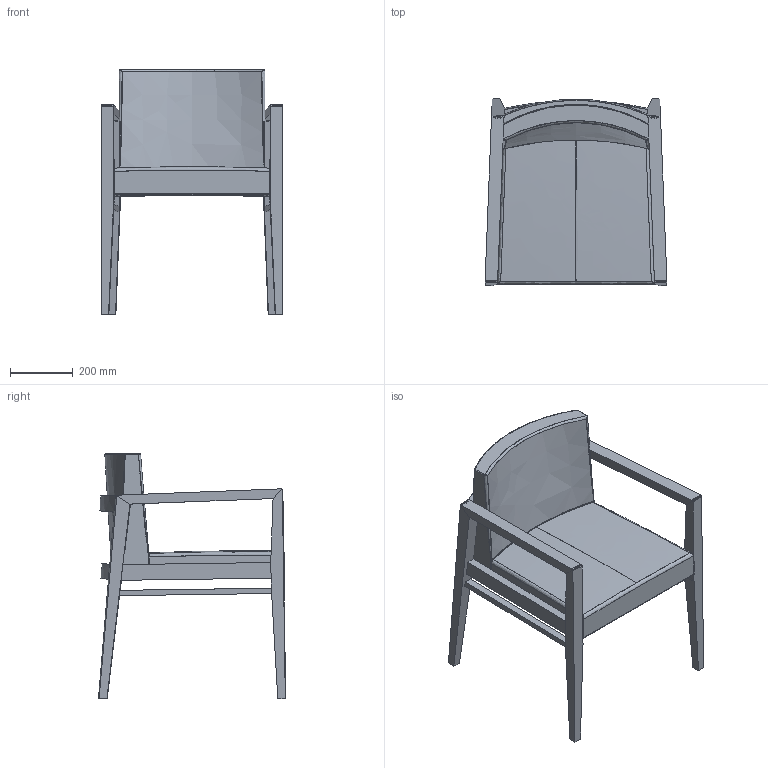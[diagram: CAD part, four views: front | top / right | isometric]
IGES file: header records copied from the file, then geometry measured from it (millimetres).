
Start section: SolidWorks IGES file using analytic representation for surfaces
Global section: file name: C:\Users\Adao\Documents\Trab Adao\Desenho técnico PRODUÇÃO\J M S\SERENA\Linha SERENA (3D)\Cadeirão SERENA M-53.IGS; native system: SolidWorks 2012; preprocessor: SolidWorks 2012; author: Adao; date: 121219.172232; units: millimetre
Bounding box: 581 x 597.63 x 782.36 mm (x, y, z)
Surface area: 2048880.5 mm2 (no closed solid volume)
Topology: 0 solids, 0 shells, 165 faces, 1994 edges, 1989 vertices
Faces by surface type: bspline 141, revolution 24
